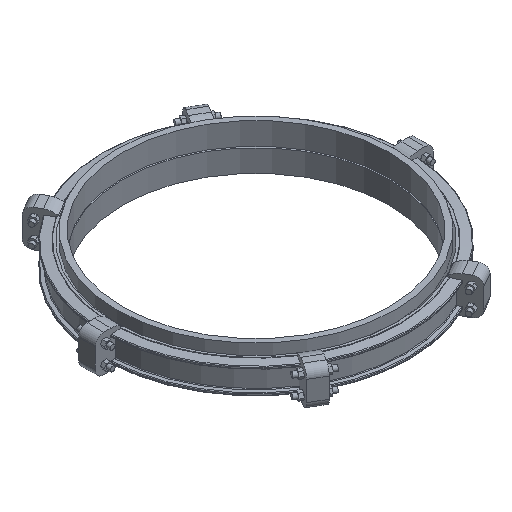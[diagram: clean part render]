
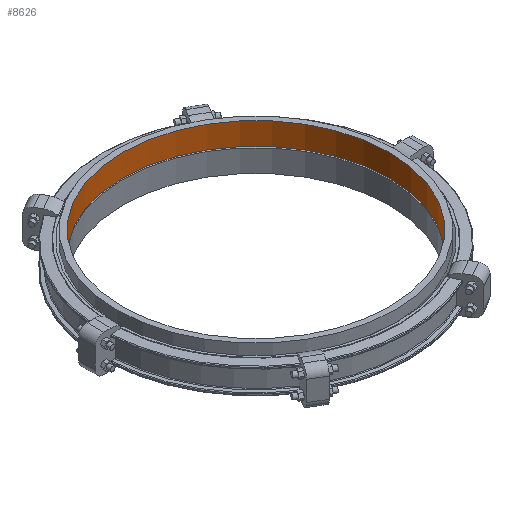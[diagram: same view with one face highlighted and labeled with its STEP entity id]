
A CAD part, isometric view. The second image highlights one B-rep face of the part: STEP entity #8626.
In plain terms, the highlighted cylindrical face has radius 1219.2 mm (diameter 2438.4 mm), a full revolution.
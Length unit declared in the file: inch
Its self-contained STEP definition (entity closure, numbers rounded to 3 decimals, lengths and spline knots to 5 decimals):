
#1061=FACE_OUTER_BOUND('',#1591,.T.);
#1591=EDGE_LOOP('',(#7599,#7600,#7601,#7602,#7603,#7604));
#2296=LINE('',#15701,#2999);
#2999=VECTOR('',#11744,48.);
#3316=CIRCLE('',#9483,48.);
#3317=CIRCLE('',#9484,48.);
#3318=CIRCLE('',#9486,48.);
#3319=CIRCLE('',#9487,48.);
#4104=VERTEX_POINT('',#15695);
#4105=VERTEX_POINT('',#15696);
#4106=VERTEX_POINT('',#15700);
#4107=VERTEX_POINT('',#15702);
#5270=EDGE_CURVE('',#4104,#4105,#3316,.T.);
#5271=EDGE_CURVE('',#4105,#4104,#3317,.T.);
#5272=EDGE_CURVE('',#4105,#4106,#2296,.T.);
#5273=EDGE_CURVE('',#4107,#4106,#3318,.T.);
#5274=EDGE_CURVE('',#4106,#4107,#3319,.T.);
#7599=ORIENTED_EDGE('',*,*,#5270,.T.);
#7600=ORIENTED_EDGE('',*,*,#5272,.T.);
#7601=ORIENTED_EDGE('',*,*,#5273,.F.);
#7602=ORIENTED_EDGE('',*,*,#5274,.F.);
#7603=ORIENTED_EDGE('',*,*,#5272,.F.);
#7604=ORIENTED_EDGE('',*,*,#5271,.T.);
#7715=CYLINDRICAL_SURFACE('',#9485,48.);
#8626=ADVANCED_FACE('',(#1061),#7715,.F.);
#9483=AXIS2_PLACEMENT_3D('',#15697,#11738,#11739);
#9484=AXIS2_PLACEMENT_3D('',#15698,#11740,#11741);
#9485=AXIS2_PLACEMENT_3D('',#15699,#11742,#11743);
#9486=AXIS2_PLACEMENT_3D('',#15703,#11745,#11746);
#9487=AXIS2_PLACEMENT_3D('',#15704,#11747,#11748);
#11738=DIRECTION('center_axis',(0.,0.,-1.));
#11739=DIRECTION('ref_axis',(1.,0.,0.));
#11740=DIRECTION('center_axis',(0.,0.,-1.));
#11741=DIRECTION('ref_axis',(1.,0.,0.));
#11742=DIRECTION('center_axis',(0.,0.,-1.));
#11743=DIRECTION('ref_axis',(0.,1.,0.));
#11744=DIRECTION('',(0.,0.,1.));
#11745=DIRECTION('center_axis',(0.,0.,-1.));
#11746=DIRECTION('ref_axis',(1.,0.,0.));
#11747=DIRECTION('center_axis',(0.,0.,-1.));
#11748=DIRECTION('ref_axis',(1.,0.,0.));
#15695=CARTESIAN_POINT('',(0.,48.,0.));
#15696=CARTESIAN_POINT('',(0.,-48.,0.));
#15697=CARTESIAN_POINT('Origin',(0.,0.,0.));
#15698=CARTESIAN_POINT('Origin',(0.,0.,0.));
#15699=CARTESIAN_POINT('Origin',(0.,0.,4.));
#15700=CARTESIAN_POINT('',(0.,-48.,8.));
#15701=CARTESIAN_POINT('',(0.,-48.,4.));
#15702=CARTESIAN_POINT('',(0.,48.,8.));
#15703=CARTESIAN_POINT('Origin',(0.,0.,8.));
#15704=CARTESIAN_POINT('Origin',(0.,0.,8.));
